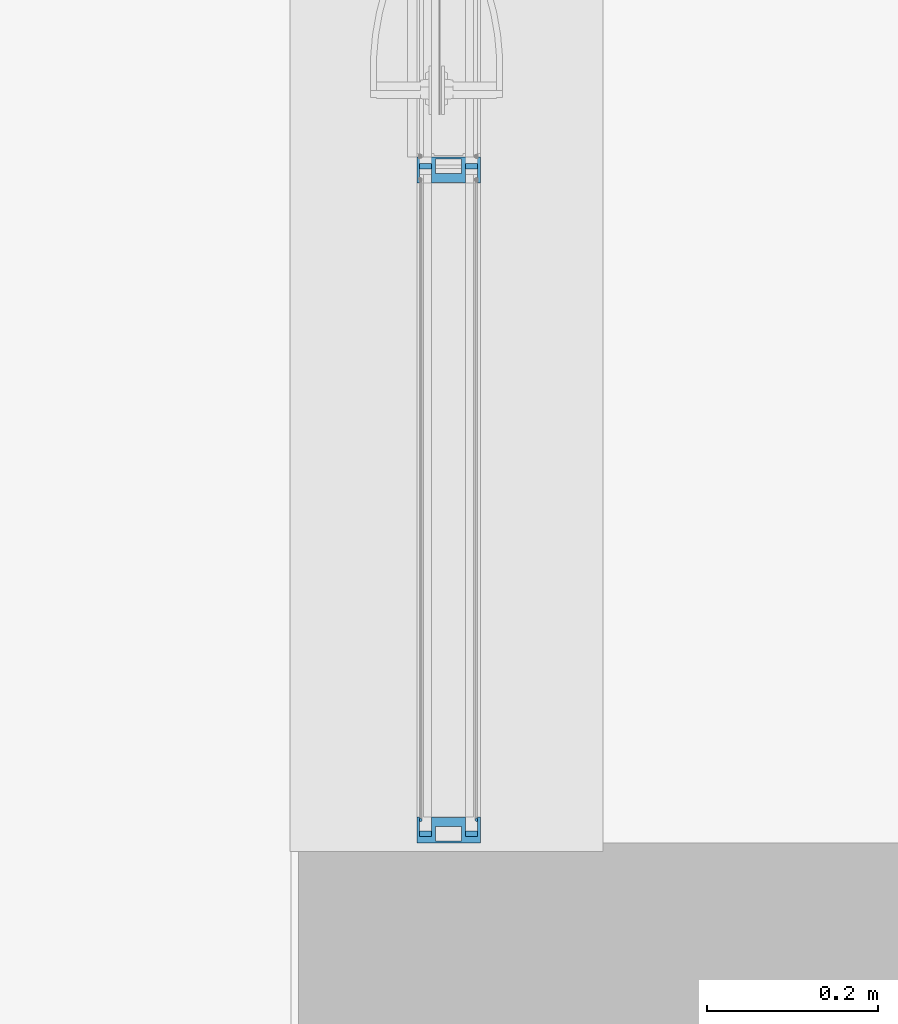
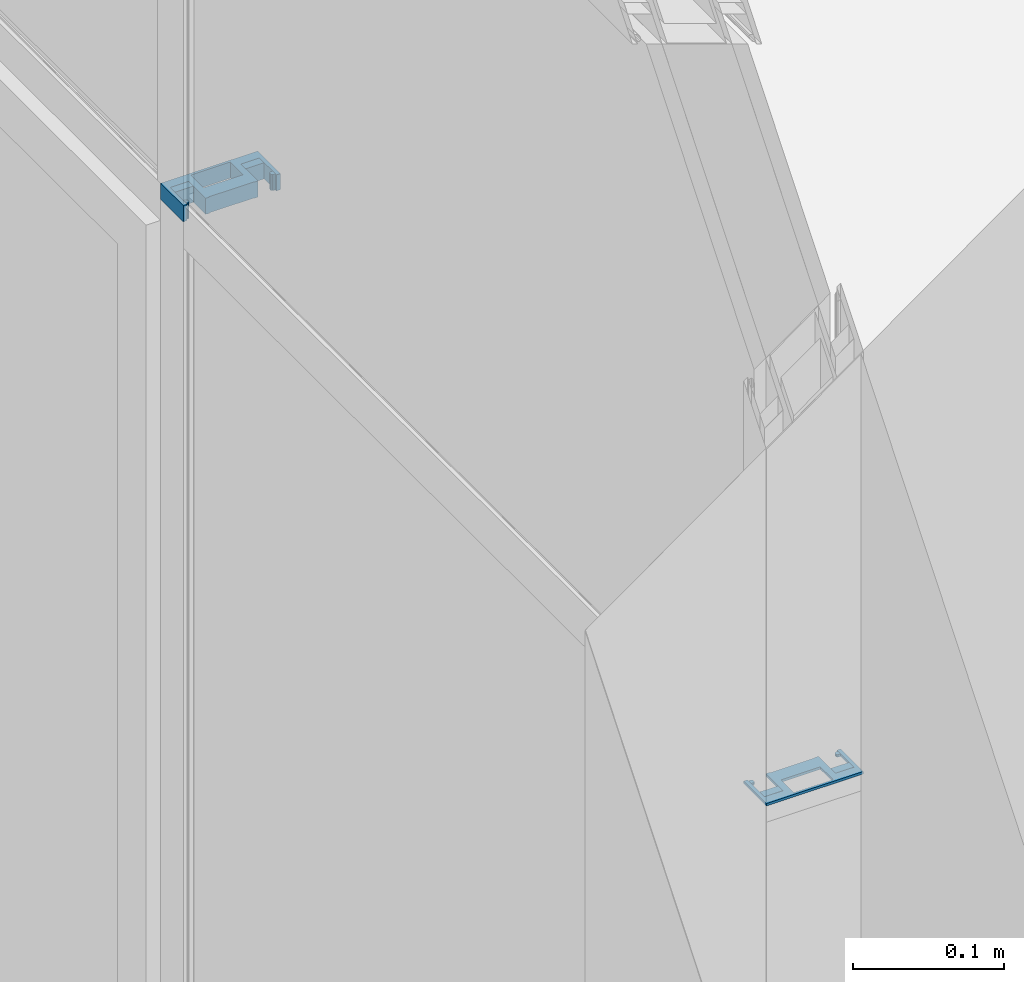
# One storey, part 76 of 89: 4 building element parts, 3 elements without a shape of their own.
"""IFC2X3 building model written with IfcOpenShell, lengths in millimetres."""

from ifc_helpers import new_model, entity, si_unit, converted_unit, derived_unit, money_unit, direction, frame, origin_with_axes, place, context, subcontext, project, spatial, faceted_brep, material, type_object, element, aggregate, save


model = new_model("IFC2X3")

# Units and contexts
model_context = context("Model", 3, precision=0.01, world=origin_with_axes(), true_north=direction((0.0, 1.0)))
body_context = subcontext(model_context, "Body", "Model", "MODEL_VIEW")
ifc_project = project(units=[si_unit("LENGTHUNIT", "METRE", prefix="MILLI"), si_unit("AREAUNIT", "SQUARE_METRE"), si_unit("VOLUMEUNIT", "CUBIC_METRE"), converted_unit("PLANEANGLEUNIT", "DEGREE", entity("IfcPlaneAngleMeasure", 0.0174532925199), si_unit("PLANEANGLEUNIT", "RADIAN"), dimensions=[0, 0, 0, 0, 0, 0, 0]), si_unit("SOLIDANGLEUNIT", "STERADIAN"), money_unit("EUR"), converted_unit("TIMEUNIT", "Year", entity("IfcTimeMeasure", 31556926.0), si_unit("TIMEUNIT", "SECOND"), dimensions=[0, 0, 1, 0, 0, 0, 0]), si_unit("MASSUNIT", "GRAM", prefix="KILO"), si_unit("THERMODYNAMICTEMPERATUREUNIT", "DEGREE_CELSIUS"), si_unit("LUMINOUSINTENSITYUNIT", "LUMEN"), si_unit("ENERGYUNIT", "JOULE", prefix="MEGA"), derived_unit("THERMALCONDUCTANCEUNIT", [(si_unit("POWERUNIT", "WATT"), 1), (si_unit("LENGTHUNIT", "METRE"), -1), (si_unit("THERMODYNAMICTEMPERATUREUNIT", "KELVIN"), -1)]), derived_unit("SPECIFICHEATCAPACITYUNIT", [(si_unit("ENERGYUNIT", "JOULE"), 1), (si_unit("MASSUNIT", "GRAM", prefix="KILO"), -1), (si_unit("THERMODYNAMICTEMPERATUREUNIT", "KELVIN"), -1)]), derived_unit("MASSDENSITYUNIT", [(si_unit("MASSUNIT", "GRAM", prefix="KILO"), 1), (si_unit("VOLUMEUNIT", "CUBIC_METRE"), -1)])], contexts=[model_context])

# Site, building, storey
site_placement = place(None, origin_with_axes())
site = spatial("IfcSite", under=ifc_project, at=site_placement, Name="Puškini 31, Narva", CompositionType="ELEMENT")
building_placement = place(site_placement, origin_with_axes())
building = spatial("IfcBuilding", under=site, at=building_placement, Name="Narva Riigigümnaasium", CompositionType="ELEMENT")
storey_placement = place(building_placement, frame((0.0, 0.0, -3300.0), z_axis=(0.0, 0.0, 1.0), x_axis=(1.0, 0.0, 0.0)))
storey = spatial("IfcBuildingStorey", under=building, at=storey_placement, Name="1.korrus -3.3", CompositionType="ELEMENT", Elevation=-3300.0)

# Curtain wall, members, building element parts
curtain_wall_type = type_object("IfcCurtainWallType", Name="Curtain Wall Type", PredefinedType="NOTDEFINED")
curtain_wall_placement = place(storey_placement, frame((47675.0000001, 242632.20006, -3.78005973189e-05), z_axis=(0.0, 0.0, 1.0), x_axis=(1.0, 0.0, 0.0)))
curtain_wall = element("IfcCurtainWall", 1, at=curtain_wall_placement, inside=storey, type_object=curtain_wall_type, Name="G-SKLF-10")
member_type_1 = type_object("IfcMemberType", Name="30 x 37", PredefinedType="MULLION")
member_1_placement = place(curtain_wall_placement, frame((0.0, -472.200003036, 2413.00003207), z_axis=(0.0, 0.0, 1.0), x_axis=(0.0, 1.0, 0.0)))
member_1 = element("IfcMember", 2, at=member_1_placement, type_object=member_type_1, Name="G-SKLF-10-raam", ObjectType="MULLION")
ifc_material_1 = material(Name="Klaasvill")
building_element_part_1_placement = place(member_1_placement, origin_with_axes())
building_element_part_1 = element("IfcBuildingElementPart", 3, at=building_element_part_1_placement, material=ifc_material_1, Name="Klaasvill", context=body_context, shape_type="Brep", body=[
    faceted_brep([(7.49999990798, 20.000000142, 0.0), (13.8499999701, 20.000000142, 0.0), (13.8499999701, 20.000000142, 2.00000020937), (7.49999990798, 20.000000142, 2.00000020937), (7.49999990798, 34.0161444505, 0.0), (13.8499999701, 34.0161444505, 0.0), (13.8499999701, 34.0161444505, 2.00000020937), (7.49999990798, 34.0161444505, 2.00000020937)], [[[0, 1, 2, 3]], [[0, 4, 5, 1]], [[1, 5, 6, 2]], [[3, 2, 6, 7]], [[4, 0, 3, 7]], [[5, 4, 7, 6]]]),
    faceted_brep([(24.987414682, 34.0161444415, 0.0), (25.004489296, 32.0307503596, 0.0), (25.004489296, 32.0307503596, 2.00000020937), (24.987414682, 34.0161444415, 2.00000020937), (28.5126239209, 34.0161444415, 0.0), (28.7655837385, 33.0385325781, 0.0), (28.4955493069, 32.0307503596, 0.0), (27.75780152, 31.2930025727, 0.0), (26.7500193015, 31.0229681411, 0.0), (25.742237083, 31.2930025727, 0.0), (25.742237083, 31.2930025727, 2.00000020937), (26.7500193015, 31.0229681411, 2.00000020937), (27.75780152, 31.2930025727, 2.00000020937), (28.4955493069, 32.0307503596, 2.00000020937), (28.7655837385, 33.0385325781, 2.00000020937), (28.5126239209, 34.0161444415, 2.00000020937)], [[[0, 1, 2, 3]], [[0, 4, 5, 6, 7, 8, 9, 1]], [[1, 9, 10, 2]], [[3, 2, 10, 11, 12, 13, 14, 15]], [[4, 0, 3, 15]], [[5, 4, 15, 14]], [[6, 5, 14, 13]], [[7, 6, 13, 12]], [[8, 7, 12, 11]], [[9, 8, 11, 10]]]),
    faceted_brep([(7.49999990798, -19.9999997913, 0.0), (7.49999990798, -34.0161445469, 0.0), (7.49999990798, -34.0161445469, 2.00000020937), (7.49999990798, -19.9999997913, 2.00000020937), (13.8499999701, -19.9999997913, 0.0), (13.8499999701, -34.0161445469, 0.0), (13.8499999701, -34.0161445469, 2.00000020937), (13.8499999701, -19.9999997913, 2.00000020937)], [[[0, 1, 2, 3]], [[0, 4, 5, 1]], [[1, 5, 6, 2]], [[3, 2, 6, 7]], [[4, 0, 3, 7]], [[5, 4, 7, 6]]]),
    faceted_brep([(25.004489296, -32.0307503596, 0.0), (24.987414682, -34.0161444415, 0.0), (24.987414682, -34.0161444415, 2.00000020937), (25.004489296, -32.0307503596, 2.00000020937), (25.742237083, -31.2930025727, 0.0), (26.7500193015, -31.0229681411, 0.0), (27.75780152, -31.2930025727, 0.0), (28.4955493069, -32.0307503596, 0.0), (28.7655837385, -33.0385325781, 0.0), (28.5126239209, -34.0161444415, 0.0), (28.5126239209, -34.0161444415, 2.00000020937), (28.7655837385, -33.0385325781, 2.00000020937), (28.4955493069, -32.0307503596, 2.00000020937), (27.75780152, -31.2930025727, 2.00000020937), (26.7500193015, -31.0229681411, 2.00000020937), (25.742237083, -31.2930025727, 2.00000020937)], [[[0, 1, 2, 3]], [[0, 4, 5, 6, 7, 8, 9, 1]], [[1, 9, 10, 2]], [[3, 2, 10, 11, 12, 13, 14, 15]], [[4, 0, 3, 15]], [[5, 4, 15, 14]], [[6, 5, 14, 13]], [[7, 6, 13, 12]], [[8, 7, 12, 11]], [[9, 8, 11, 10]]]),
])
ifc_material_2 = material(Name="Teras RAL7012")
building_element_part_2_placement = place(member_1_placement, origin_with_axes())
building_element_part_2 = element("IfcBuildingElementPart", 4, at=building_element_part_2_placement, material=ifc_material_2, Name="Teras RAL7012", context=body_context, shape_type="Brep", body=[
    faceted_brep([(0.0, -17.0000000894, 0.0), (29.5999996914, -17.0000000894, 0.0), (29.5999996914, -17.0000000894, 2.00000020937), (0.0, -17.0000000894, 2.00000020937), (0.0, 17.0000000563, 0.0), (29.5999996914, 17.0000000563, 0.0), (1.9999999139, 15.0000001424, 0.0), (1.9999999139, -15.0000001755, 0.0), (18.7999996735, -15.0000001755, 0.0), (18.7999996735, 15.0000001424, 0.0), (29.5999996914, 17.0000000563, 2.00000020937), (0.0, 17.0000000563, 2.00000020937), (1.9999999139, 15.0000001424, 2.00000020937), (18.7999996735, 15.0000001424, 2.00000020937), (18.7999996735, -15.0000001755, 2.00000020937), (1.9999999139, -15.0000001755, 2.00000020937)], [[[0, 1, 2, 3]], [[0, 4, 5, 1], [6, 7, 8, 9]], [[1, 5, 10, 2]], [[3, 2, 10, 11], [12, 13, 14, 15]], [[4, 0, 3, 11]], [[5, 4, 11, 10]], [[7, 6, 12, 15]], [[8, 7, 15, 14]], [[9, 8, 14, 13]], [[6, 9, 13, 12]]]),
    faceted_brep([(0.0, 17.0, 0.0), (29.5999996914, 17.0000000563, 0.0), (29.5999996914, 17.0000000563, 2.00000020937), (0.0, 17.0, 2.00000020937), (0.0, 37.0, 0.0), (30.0000193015, 37.0, 0.0), (30.0000193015, 34.0161444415, 0.0), (28.5126239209, 34.0161444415, 0.0), (24.987414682, 34.0161444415, 0.0), (13.8499999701, 34.0161444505, 0.0), (7.49999999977, 34.0161444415, 0.0), (7.49999999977, 20.0, 0.0), (13.8499999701, 20.000000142, 0.0), (30.0000193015, 20.0, 0.0), (30.0000193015, 17.0, 0.0), (30.0000193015, 17.0, 2.00000020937), (30.0000193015, 20.0, 2.00000020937), (13.8499999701, 20.000000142, 2.00000020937), (7.49999999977, 20.0, 2.00000020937), (7.49999999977, 34.0161444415, 2.00000020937), (13.8499999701, 34.0161444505, 2.00000020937), (24.987414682, 34.0161444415, 2.00000020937), (28.5126239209, 34.0161444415, 2.00000020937), (30.0000193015, 34.0161444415, 2.00000020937), (30.0000193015, 37.0, 2.00000020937), (0.0, 37.0, 2.00000020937)], [[[0, 1, 2, 3]], [[0, 4, 5, 6, 7, 8, 9, 10, 11, 12, 13, 14, 1]], [[1, 14, 15, 2]], [[3, 2, 15, 16, 17, 18, 19, 20, 21, 22, 23, 24, 25]], [[4, 0, 3, 25]], [[5, 4, 25, 24]], [[6, 5, 24, 23]], [[7, 6, 23, 22]], [[8, 7, 22, 21]], [[9, 8, 21, 20]], [[10, 9, 20, 19]], [[11, 10, 19, 18]], [[12, 11, 18, 17]], [[13, 12, 17, 16]], [[14, 13, 16, 15]]]),
    faceted_brep([(0.0, -17.0, 0.0), (0.0, -37.0, 0.0), (0.0, -37.0, 2.00000020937), (0.0, -17.0, 2.00000020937), (29.5999996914, -17.0000000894, 0.0), (30.0000193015, -17.0, 0.0), (30.0000193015, -20.0, 0.0), (13.8499999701, -19.9999997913, 0.0), (7.49999999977, -20.0, 0.0), (7.49999999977, -34.0161444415, 0.0), (13.8499999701, -34.0161445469, 0.0), (24.987414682, -34.0161444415, 0.0), (28.5126239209, -34.0161444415, 0.0), (30.0000193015, -34.0161444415, 0.0), (30.0000193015, -37.0, 0.0), (30.0000193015, -37.0, 2.00000020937), (30.0000193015, -34.0161444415, 2.00000020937), (28.5126239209, -34.0161444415, 2.00000020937), (24.987414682, -34.0161444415, 2.00000020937), (13.8499999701, -34.0161445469, 2.00000020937), (7.49999999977, -34.0161444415, 2.00000020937), (7.49999999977, -20.0, 2.00000020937), (13.8499999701, -19.9999997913, 2.00000020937), (30.0000193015, -20.0, 2.00000020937), (30.0000193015, -17.0, 2.00000020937), (29.5999996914, -17.0000000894, 2.00000020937)], [[[0, 1, 2, 3]], [[0, 4, 5, 6, 7, 8, 9, 10, 11, 12, 13, 14, 1]], [[1, 14, 15, 2]], [[3, 2, 15, 16, 17, 18, 19, 20, 21, 22, 23, 24, 25]], [[4, 0, 3, 25]], [[5, 4, 25, 24]], [[6, 5, 24, 23]], [[7, 6, 23, 22]], [[8, 7, 22, 21]], [[9, 8, 21, 20]], [[10, 9, 20, 19]], [[11, 10, 19, 18]], [[12, 11, 18, 17]], [[13, 12, 17, 16]], [[14, 13, 16, 15]]]),
])
aggregate(member_1, [building_element_part_1, building_element_part_2])
member_type_2 = type_object("IfcMemberType", Name="30 x -96", PredefinedType="MULLION")
member_2_placement = place(curtain_wall_placement, frame((0.0, 327.799996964, 2417.0), z_axis=(0.0, 0.0, 1.0), x_axis=(0.0, 1.0, 0.0)))
member_2 = element("IfcMember", 5, at=member_2_placement, type_object=member_type_2, Name="G-SKLF-10-raam", ObjectType="MULLION")
aggregate(curtain_wall, [member_1, member_2])
building_element_part_3_placement = place(member_2_placement, origin_with_axes())
building_element_part_3 = element("IfcBuildingElementPart", 6, at=building_element_part_3_placement, material=ifc_material_1, Name="Klaasvill", context=body_context, shape_type="Brep", body=[
    faceted_brep([(-13.8499999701, 20.000000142, 0.0), (-7.49999990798, 20.000000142, 0.0), (-7.49999990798, 20.000000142, 13.0), (-13.8499999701, 20.000000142, 13.0), (-13.8499999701, 34.0161444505, 0.0), (-7.49999990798, 34.0161444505, 0.0), (-7.49999990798, 34.0161444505, 13.0), (-13.8499999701, 34.0161444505, 13.0)], [[[0, 1, 2, 3]], [[0, 4, 5, 1]], [[1, 5, 6, 2]], [[3, 2, 6, 7]], [[4, 0, 3, 7]], [[5, 4, 7, 6]]]),
    faceted_brep([(-24.987414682, 34.0161444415, 0.0), (-28.7655837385, 33.0385325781, 0.0), (-28.7655837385, 33.0385325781, 13.0), (-24.987414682, 34.0161444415, 13.0), (-24.7344548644, 33.0385325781, 0.0), (-25.004489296, 32.0307503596, 0.0), (-25.742237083, 31.2930025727, 0.0), (-26.7500193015, 31.0229681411, 0.0), (-27.75780152, 31.2930025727, 0.0), (-28.4955493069, 32.0307503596, 0.0), (-28.4955493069, 32.0307503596, 13.0), (-27.75780152, 31.2930025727, 13.0), (-26.7500193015, 31.0229681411, 13.0), (-25.742237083, 31.2930025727, 13.0), (-25.004489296, 32.0307503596, 13.0), (-24.7344548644, 33.0385325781, 13.0)], [[[0, 1, 2, 3]], [[0, 4, 5, 6, 7, 8, 9, 1]], [[1, 9, 10, 2]], [[3, 2, 10, 11, 12, 13, 14, 15]], [[4, 0, 3, 15]], [[5, 4, 15, 14]], [[6, 5, 14, 13]], [[7, 6, 13, 12]], [[8, 7, 12, 11]], [[9, 8, 11, 10]]]),
    faceted_brep([(-13.8499999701, -19.9999997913, 0.0), (-13.8499999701, -34.0161445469, 0.0), (-13.8499999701, -34.0161445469, 13.0), (-13.8499999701, -19.9999997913, 13.0), (-7.49999990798, -19.9999997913, 0.0), (-7.49999990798, -34.0161445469, 0.0), (-7.49999990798, -34.0161445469, 13.0), (-7.49999990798, -19.9999997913, 13.0)], [[[0, 1, 2, 3]], [[0, 4, 5, 1]], [[1, 5, 6, 2]], [[3, 2, 6, 7]], [[4, 0, 3, 7]], [[5, 4, 7, 6]]]),
    faceted_brep([(-24.987414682, -34.0161444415, 0.0), (-25.004489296, -32.0307503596, 0.0), (-25.004489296, -32.0307503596, 13.0), (-24.987414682, -34.0161444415, 13.0), (-28.5126239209, -34.0161444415, 0.0), (-28.7655837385, -33.0385325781, 0.0), (-28.4955493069, -32.0307503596, 0.0), (-27.75780152, -31.2930025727, 0.0), (-26.7500193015, -31.0229681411, 0.0), (-25.742237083, -31.2930025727, 0.0), (-25.742237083, -31.2930025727, 13.0), (-26.7500193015, -31.0229681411, 13.0), (-27.75780152, -31.2930025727, 13.0), (-28.4955493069, -32.0307503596, 13.0), (-28.7655837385, -33.0385325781, 13.0), (-28.5126239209, -34.0161444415, 13.0)], [[[0, 1, 2, 3]], [[0, 4, 5, 6, 7, 8, 9, 1]], [[1, 9, 10, 2]], [[3, 2, 10, 11, 12, 13, 14, 15]], [[4, 0, 3, 15]], [[5, 4, 15, 14]], [[6, 5, 14, 13]], [[7, 6, 13, 12]], [[8, 7, 12, 11]], [[9, 8, 11, 10]]]),
])
building_element_part_4_placement = place(member_2_placement, origin_with_axes())
building_element_part_4 = element("IfcBuildingElementPart", 7, at=building_element_part_4_placement, material=ifc_material_2, Name="Teras RAL7012", context=body_context, shape_type="Brep", body=[
    faceted_brep([(-29.6000001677, 17.0000000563, 0.0), (-29.6000001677, -17.0000000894, 0.0), (-29.6000001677, -17.0000000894, 13.0), (-29.6000001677, 17.0000000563, 13.0), (3.28335792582e-07, 17.0000000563, 0.0), (3.28335792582e-07, -17.0000000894, 0.0), (-1.99999958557, -15.0000001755, 0.0), (-1.99999958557, 15.0000001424, 0.0), (-18.8000001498, 15.0000001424, 0.0), (-18.8000001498, -15.0000001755, 0.0), (3.28335792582e-07, -17.0000000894, 13.0), (3.28335792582e-07, 17.0000000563, 13.0), (-1.99999958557, -15.0000001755, 13.0), (-18.8000001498, -15.0000001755, 13.0), (-18.8000001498, 15.0000001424, 13.0), (-1.99999958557, 15.0000001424, 13.0)], [[[0, 1, 2, 3]], [[0, 4, 5, 1], [6, 7, 8, 9]], [[1, 5, 10, 2]], [[3, 2, 10, 11], [12, 13, 14, 15]], [[4, 0, 3, 11]], [[5, 4, 11, 10]], [[7, 6, 12, 15]], [[8, 7, 15, 14]], [[9, 8, 14, 13]], [[6, 9, 13, 12]]]),
    faceted_brep([(0.0, 17.0, 0.0), (0.0, 37.0, 0.0), (0.0, 37.0, 13.0), (0.0, 17.0, 13.0), (-29.6000001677, 17.0000000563, 0.0), (-30.0000193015, 17.0, 0.0), (-30.0000193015, 20.0, 0.0), (-13.8499999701, 20.000000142, 0.0), (-7.49999999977, 20.0, 0.0), (-7.49999999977, 34.0161444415, 0.0), (-13.8499999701, 34.0161444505, 0.0), (-24.987414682, 34.0161444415, 0.0), (-28.5126239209, 34.0161444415, 0.0), (-30.0000193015, 34.0161444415, 0.0), (-30.0000193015, 37.0, 0.0), (-30.0000193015, 37.0, 13.0), (-30.0000193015, 34.0161444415, 13.0), (-28.5126239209, 34.0161444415, 13.0), (-24.987414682, 34.0161444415, 13.0), (-13.8499999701, 34.0161444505, 13.0), (-7.49999999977, 34.0161444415, 13.0), (-7.49999999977, 20.0, 13.0), (-13.8499999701, 20.000000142, 13.0), (-30.0000193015, 20.0, 13.0), (-30.0000193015, 17.0, 13.0), (-29.6000001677, 17.0000000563, 13.0)], [[[0, 1, 2, 3]], [[0, 4, 5, 6, 7, 8, 9, 10, 11, 12, 13, 14, 1]], [[1, 14, 15, 2]], [[3, 2, 15, 16, 17, 18, 19, 20, 21, 22, 23, 24, 25]], [[4, 0, 3, 25]], [[5, 4, 25, 24]], [[6, 5, 24, 23]], [[7, 6, 23, 22]], [[8, 7, 22, 21]], [[9, 8, 21, 20]], [[10, 9, 20, 19]], [[11, 10, 19, 18]], [[12, 11, 18, 17]], [[13, 12, 17, 16]], [[14, 13, 16, 15]]]),
    faceted_brep([(0.0, -17.0, 0.0), (-29.6000001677, -17.0000000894, 0.0), (-29.6000001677, -17.0000000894, 13.0), (0.0, -17.0, 13.0), (0.0, -37.0, 0.0), (-30.0000193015, -37.0, 0.0), (-30.0000193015, -34.0161444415, 0.0), (-28.5126239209, -34.0161444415, 0.0), (-24.987414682, -34.0161444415, 0.0), (-13.8499999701, -34.0161445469, 0.0), (-7.49999999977, -34.0161444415, 0.0), (-7.49999999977, -20.0, 0.0), (-13.8499999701, -19.9999997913, 0.0), (-30.0000193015, -20.0, 0.0), (-30.0000193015, -17.0, 0.0), (-30.0000193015, -17.0, 13.0), (-30.0000193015, -20.0, 13.0), (-13.8499999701, -19.9999997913, 13.0), (-7.49999999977, -20.0, 13.0), (-7.49999999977, -34.0161444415, 13.0), (-13.8499999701, -34.0161445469, 13.0), (-24.987414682, -34.0161444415, 13.0), (-28.5126239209, -34.0161444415, 13.0), (-30.0000193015, -34.0161444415, 13.0), (-30.0000193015, -37.0, 13.0), (0.0, -37.0, 13.0)], [[[0, 1, 2, 3]], [[0, 4, 5, 6, 7, 8, 9, 10, 11, 12, 13, 14, 1]], [[1, 14, 15, 2]], [[3, 2, 15, 16, 17, 18, 19, 20, 21, 22, 23, 24, 25]], [[4, 0, 3, 25]], [[5, 4, 25, 24]], [[6, 5, 24, 23]], [[7, 6, 23, 22]], [[8, 7, 22, 21]], [[9, 8, 21, 20]], [[10, 9, 20, 19]], [[11, 10, 19, 18]], [[12, 11, 18, 17]], [[13, 12, 17, 16]], [[14, 13, 16, 15]]]),
])
aggregate(member_2, [building_element_part_3, building_element_part_4])

save(model, "model.ifc")
